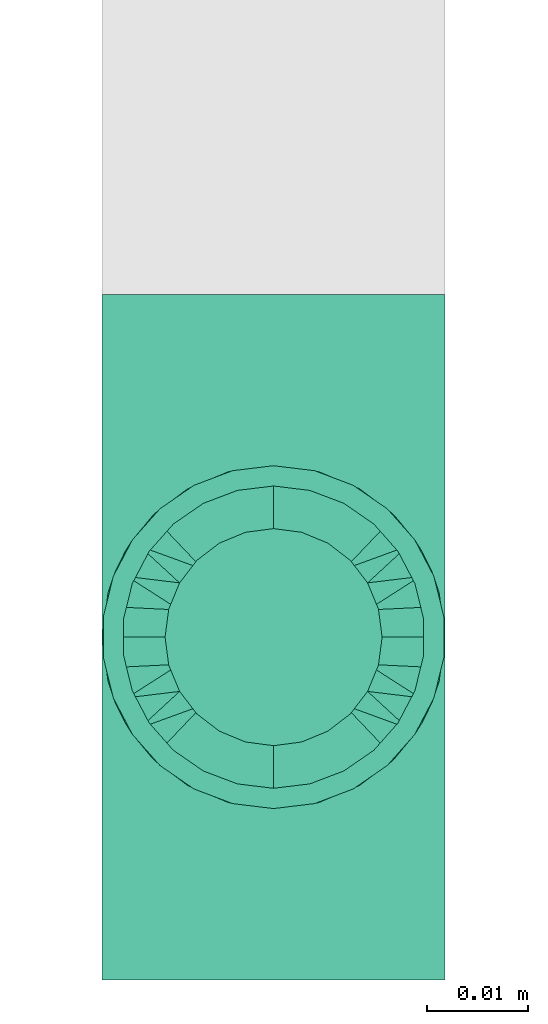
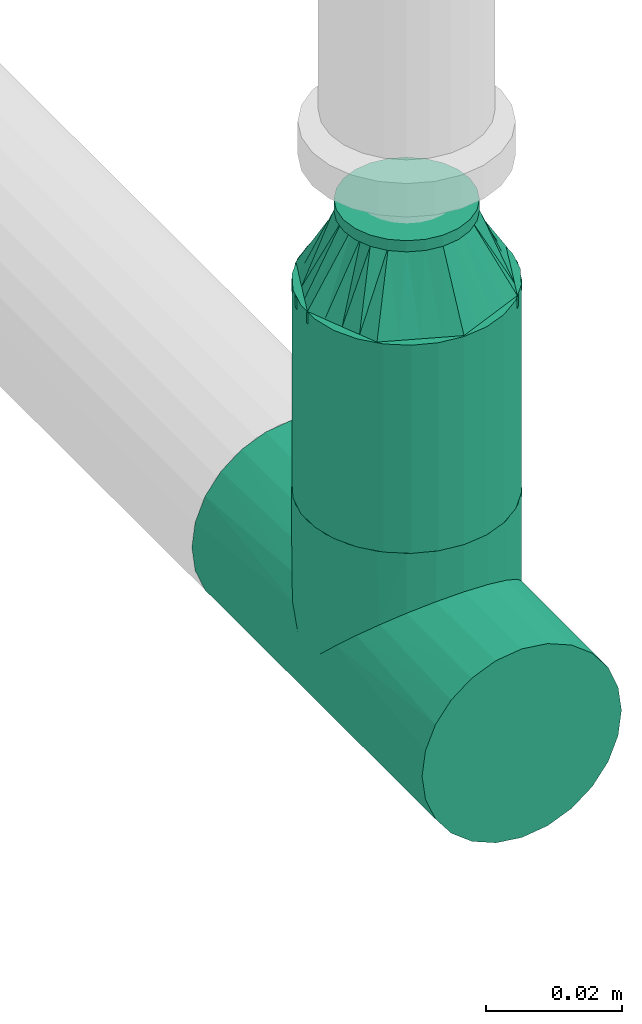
# One storey, part 66 of 94: 2 flow fittings, 1 flow segment.
"""IFC2X3 building model written with IfcOpenShell, lengths in millimetres."""

from ifc_helpers import new_model, entity, si_unit, converted_unit, derived_unit, direction, frame, origin_with_axes, origin_2d_with_axis, place, context, subcontext, project, spatial, hollow_circle, extrude, open_shell, surface_model, source, transform, mapped, type_object, element, save


model = new_model("IFC2X3")

# Units and contexts
model_context = context("Model", 3, precision=0.01, world=frame((0.0, 4.29681676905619e-09, 0.0)), true_north=direction((4.01073788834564e-13, 1.0)))
plan_context = context("Plan", 3, precision=0.01, world=frame((0.0, 4.29681676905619e-09, 0.0)), true_north=direction((4.01073788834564e-13, 1.0)))
body_context = subcontext(model_context, "Body", "Model", "MODEL_VIEW")
ifc_project = project(units=[converted_unit("PLANEANGLEUNIT", "DEGREE", entity("IfcPositiveLengthMeasure", 0.0174532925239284), si_unit("PLANEANGLEUNIT", "RADIAN"), dimensions=[0, 0, 0, 0, 0, 0, 0]), si_unit("AREAUNIT", "SQUARE_METRE"), si_unit("LENGTHUNIT", "METRE", prefix="MILLI"), si_unit("MASSUNIT", "GRAM", prefix="KILO"), si_unit("POWERUNIT", "WATT"), si_unit("PRESSUREUNIT", "PASCAL"), si_unit("FORCEUNIT", "NEWTON", prefix="KILO"), si_unit("ELECTRICCURRENTUNIT", "AMPERE"), si_unit("THERMODYNAMICTEMPERATUREUNIT", "DEGREE_CELSIUS"), si_unit("TIMEUNIT", "SECOND"), si_unit("VOLUMEUNIT", "CUBIC_METRE"), derived_unit("LINEARVELOCITYUNIT", [(si_unit("LENGTHUNIT", "METRE"), 1), (si_unit("TIMEUNIT", "SECOND"), -1)]), derived_unit("VOLUMETRICFLOWRATEUNIT", [(si_unit("VOLUMEUNIT", "CUBIC_METRE"), 1), (si_unit("TIMEUNIT", "SECOND"), -1)]), derived_unit("THERMALTRANSMITTANCEUNIT", [(si_unit("POWERUNIT", "WATT"), 1), (si_unit("THERMODYNAMICTEMPERATUREUNIT", "KELVIN"), -1), (si_unit("AREAUNIT", "SQUARE_METRE"), -1)])], contexts=[model_context, plan_context])

# Site, building, storey
site_placement = place(None, frame((0.0, -4.29681676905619e-09, 0.0), z_axis=(0.0, 0.0, 1.0), x_axis=(1.0, 0.0, 0.0)))
site = spatial("IfcSite", under=ifc_project, at=site_placement, CompositionType="ELEMENT")
building_placement = place(site_placement, frame((0.0, 4.29681676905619e-09, 0.0), z_axis=(0.0, 0.0, 1.0), x_axis=(1.0, 0.0, 0.0)))
building = spatial("IfcBuilding", under=site, at=building_placement, Name="mc-building", CompositionType="ELEMENT")
storey_placement = place(building_placement, frame((0.0, 0.0, 200300.0), z_axis=(0.0, 0.0, 1.0), x_axis=(1.0, 0.0, 0.0)))
storey = spatial("IfcBuildingStorey", under=building, at=storey_placement, Name="Nivå C", CompositionType="ELEMENT", Elevation=200300.0)

# Flow fittings
pipe_fitting_type_1 = type_object("IfcPipeFittingType", Name="magi_pipe_fe_tee_centric_90_NOR", PredefinedType="JUNCTION")
shared_shape_1 = source(origin_with_axes(), body_context, "Body", "SurfaceModel", [
    surface_model("IfcShellBasedSurfaceModel", [(-33.8, 4.37404, -16.32415), (-33.8, 0.0, -16.9), (-33.8, 16.32415, -4.37404), (-33.8, 8.45, -14.63583), (-33.8, 11.9501, -11.9501), (-33.8, 14.63583, -8.45), (-33.8, -16.9, 0.0), (-33.8, -11.9501, -11.9501), (-33.8, -14.63583, -8.45), (-33.8, -8.45, -14.63583), (-33.8, -4.37404, -16.32415), (-33.8, -16.32415, -4.37404), (-33.8, 14.63583, 8.45), (-33.8, 16.32415, 4.37404), (-33.8, -8.45, 14.63583), (-33.8, 8.45, 14.63583), (-33.8, 11.9501, 11.9501), (-33.8, 4.37404, 16.32415), (-33.8, 0.0, 16.9), (-33.8, -11.9501, 11.9501), (-33.8, -14.63583, 8.45), (-33.8, -16.32415, 4.37404), (-33.8, -4.37404, 16.32415), (-33.8, 16.9, 0.0), (33.8, 4.37404, -16.32415), (33.8, -16.9, 0.0), (33.8, 0.0, -16.9), (33.8, 14.63583, -8.45), (33.8, 8.45, -14.63583), (33.8, 16.32415, -4.37404), (33.8, 11.9501, -11.9501), (33.8, -16.32415, 4.37404), (33.8, -8.45, -14.63583), (33.8, -4.37404, -16.32415), (33.8, -11.9501, -11.9501), (33.8, -14.63583, -8.45), (33.8, -16.32415, -4.37404), (33.8, 16.32415, 4.37404), (33.8, 8.45, 14.63583), (33.8, 14.63583, 8.45), (33.8, 11.9501, 11.9501), (33.8, -8.45, 14.63583), (33.8, 4.37404, 16.32415), (33.8, -14.63583, 8.45), (33.8, -11.9501, 11.9501), (33.8, 0.0, 16.9), (33.8, -4.37404, 16.32415), (33.8, 16.9, 0.0), (16.28698, -16.28698, 4.51047), (16.9, -16.9, 0.0), (14.62704, -14.62704, 8.4652), (9.47213, -9.47213, 13.99602), (12.26343, -12.26343, 11.62834), (-16.9, -16.9, 0.0), (-16.28698, -16.28698, 4.51047), (-14.62704, -14.62704, 8.4652), (-12.26343, -12.26343, 11.62834), (-9.47213, -9.47213, 13.99602), (-6.42894, -6.42894, 15.62942), (6.42894, -6.42894, 15.62942), (3.24522, -3.24522, 16.58549), (0.0, 0.0, 16.9), (-3.24522, -3.24522, 16.58549), (3.24522, -3.24522, -16.58549), (0.0, 0.0, -16.9), (-3.24522, -3.24522, -16.58549), (-6.42894, -6.42894, -15.62942), (6.42894, -6.42894, -15.62942), (9.47213, -9.47213, -13.99602), (12.26343, -12.26343, -11.62834), (14.62704, -14.62704, -8.4652), (16.28698, -16.28698, -4.51047), (-9.47213, -9.47213, -13.99602), (-12.26343, -12.26343, -11.62834), (-16.28698, -16.28698, -4.51047), (-14.62704, -14.62704, -8.4652), (4.37404, -25.35, -16.32415), (-16.9, -25.35, 0.0), (0.0, -25.35, -16.9), (14.63583, -25.35, -8.45), (8.45, -25.35, -14.63583), (16.32415, -25.35, -4.37404), (11.9501, -25.35, -11.9501), (-11.9501, -25.35, -11.9501), (-8.45, -25.35, -14.63583), (-4.37404, -25.35, -16.32415), (-14.63583, -25.35, -8.45), (-16.32415, -25.35, -4.37404), (16.9, -25.35, 0.0), (8.45, -25.35, 14.63583), (16.32415, -25.35, 4.37404), (14.63583, -25.35, 8.45), (-8.45, -25.35, 14.63583), (11.9501, -25.35, 11.9501), (4.37404, -25.35, 16.32415), (-16.32415, -25.35, 4.37404), (-11.9501, -25.35, 11.9501), (-14.63583, -25.35, 8.45), (0.0, -25.35, 16.9), (-4.37404, -25.35, 16.32415)], [open_shell([[[0, 1, 2]], [[3, 0, 4]], [[0, 2, 5]], [[4, 0, 5]], [[6, 2, 1]], [[7, 8, 9]], [[1, 10, 9]], [[11, 6, 8]], [[1, 9, 8]], [[1, 8, 6]], [[6, 12, 2]], [[12, 13, 2]], [[14, 12, 6]], [[12, 14, 15]], [[16, 12, 15]], [[17, 15, 18]], [[19, 14, 20]], [[21, 20, 14]], [[22, 18, 14]], [[14, 6, 21]], [[14, 18, 15]], [[23, 2, 13]], [[24, 25, 26]], [[27, 24, 28]], [[27, 29, 24]], [[27, 28, 30]], [[31, 25, 24]], [[26, 32, 33]], [[26, 34, 32]], [[35, 25, 36]], [[35, 34, 26]], [[25, 35, 26]], [[24, 29, 31]], [[29, 37, 38]], [[38, 37, 39]], [[38, 31, 29]], [[38, 39, 40]], [[41, 38, 42]], [[43, 41, 44]], [[41, 43, 31]], [[41, 45, 46]], [[41, 31, 38]], [[42, 45, 41]], [[29, 47, 37]], [[31, 43, 48]], [[25, 31, 49]], [[49, 31, 48]], [[43, 50, 48]], [[44, 41, 51]], [[50, 43, 52]], [[51, 52, 44]], [[52, 43, 44]], [[53, 54, 21]], [[53, 21, 6]], [[21, 54, 20]], [[54, 55, 20]], [[56, 57, 19]], [[19, 20, 56]], [[19, 57, 14]], [[56, 20, 55]], [[14, 57, 58]], [[51, 41, 59]], [[60, 45, 61]], [[59, 46, 60]], [[46, 59, 41]], [[60, 46, 45]], [[61, 45, 42]], [[39, 37, 13]], [[16, 38, 40]], [[12, 40, 39]], [[42, 38, 15]], [[23, 37, 47]], [[62, 61, 18]], [[62, 22, 58]], [[22, 62, 18]], [[58, 22, 14]], [[61, 17, 18]], [[42, 17, 61]], [[15, 17, 42]], [[15, 38, 16]], [[12, 16, 40]], [[13, 12, 39]], [[37, 23, 13]], [[5, 27, 30]], [[23, 47, 29]], [[30, 28, 3]], [[27, 2, 29]], [[26, 33, 63]], [[26, 64, 24]], [[64, 26, 63]], [[28, 24, 0]], [[64, 0, 24]], [[4, 30, 3]], [[2, 27, 5]], [[5, 30, 4]], [[2, 23, 29]], [[65, 66, 10]], [[1, 0, 64]], [[1, 65, 10]], [[66, 9, 10]], [[0, 3, 28]], [[1, 64, 65]], [[63, 33, 67]], [[32, 34, 68]], [[69, 68, 34]], [[35, 70, 69]], [[69, 34, 35]], [[32, 68, 67]], [[36, 25, 49]], [[36, 71, 35]], [[71, 36, 49]], [[35, 71, 70]], [[72, 9, 66]], [[72, 7, 9]], [[7, 72, 73]], [[7, 73, 8]], [[74, 53, 11]], [[75, 74, 8]], [[74, 11, 8]], [[11, 53, 6]], [[75, 8, 73]], [[32, 67, 33]], [[76, 77, 78]], [[79, 76, 80]], [[79, 81, 76]], [[79, 80, 82]], [[77, 76, 81]], [[78, 83, 84]], [[84, 85, 78]], [[86, 77, 87]], [[83, 78, 86]], [[77, 86, 78]], [[81, 88, 77]], [[89, 88, 90]], [[89, 90, 91]], [[92, 77, 89]], [[89, 91, 93]], [[92, 89, 94]], [[95, 96, 97]], [[96, 95, 92]], [[92, 98, 99]], [[95, 77, 92]], [[94, 98, 92]], [[89, 77, 88]], [[77, 95, 53]], [[54, 53, 95]], [[97, 96, 56]], [[96, 92, 57]], [[95, 97, 54]], [[58, 92, 99]], [[55, 54, 97]], [[56, 55, 97]], [[58, 57, 92]], [[98, 61, 62]], [[58, 99, 62]], [[56, 96, 57]], [[62, 99, 98]], [[94, 60, 98]], [[89, 59, 94]], [[91, 90, 48]], [[52, 93, 91]], [[93, 51, 89]], [[49, 90, 88]], [[59, 60, 94]], [[51, 59, 89]], [[49, 48, 90]], [[50, 52, 91]], [[48, 50, 91]], [[51, 93, 52]], [[98, 60, 61]], [[88, 81, 49]], [[71, 49, 81]], [[79, 82, 69]], [[82, 80, 68]], [[81, 79, 71]], [[67, 80, 76]], [[70, 71, 79]], [[69, 70, 79]], [[67, 68, 80]], [[78, 64, 63]], [[67, 76, 63]], [[69, 82, 68]], [[63, 76, 78]], [[85, 65, 78]], [[84, 66, 85]], [[86, 87, 74]], [[86, 73, 83]], [[72, 84, 83]], [[53, 87, 77]], [[66, 65, 85]], [[72, 66, 84]], [[53, 74, 87]], [[75, 73, 86]], [[74, 75, 86]], [[72, 83, 73]], [[78, 65, 64]]])]),
])
flow_fitting_1_placement = place(storey_placement, frame((530500.0, 400928.19532, 2900.0), z_axis=(-1.0, 0.0, 0.0), x_axis=(0.0, 1.0, 0.0)))
element("IfcFlowFitting", 1, at=flow_fitting_1_placement, inside=storey, type_object=pipe_fitting_type_1, Name="magi_pipe_fe_tee_centric_90_NOR", context=body_context, shape_type="MappedRepresentation", body=[
    mapped(shared_shape_1, transform((0.0, 0.0, 0.0), scale=1.0)),
])
pipe_fitting_type_2 = type_object("IfcPipeFittingType", Name="magi_pipe_fe_reducer_centric_short_NOR", PredefinedType="TRANSITION")
shared_shape_2 = source(origin_with_axes(), body_context, "Body", "SurfaceModel", [
    surface_model("IfcShellBasedSurfaceModel", [(14.4, 5.35, -9.26647), (14.4, 0.0, -10.7), (14.4, 2.76936, -10.33541), (14.4, 10.33541, -2.76936), (14.4, 7.56604, -7.56604), (14.4, -10.33541, -2.76936), (14.4, 9.26647, -5.35), (14.4, 0.0, 10.7), (14.4, -5.35, -9.26647), (14.4, -2.76936, -10.33541), (14.4, -7.56604, -7.56604), (14.4, -9.26647, -5.35), (14.4, 10.7, 0.0), (14.4, 10.33541, 2.76936), (14.4, 9.26647, 5.35), (14.4, 7.56604, 7.56604), (14.4, 2.76936, 10.33541), (14.4, 5.35, 9.26647), (14.4, -10.33541, 2.76936), (14.4, -7.56604, 7.56604), (14.4, -9.26647, 5.35), (14.4, -10.7, 0.0), (14.4, -2.76936, 10.33541), (14.4, -5.35, 9.26647), (12.4, 2.76936, 10.33541), (12.4, -10.33541, -2.76936), (12.4, 0.0, 10.7), (12.4, 5.35, 9.26647), (12.4, 7.56604, 7.56604), (12.4, 9.26647, 5.35), (12.4, 10.33541, 2.76936), (12.4, -10.33541, 2.76936), (12.4, -2.76936, 10.33541), (12.4, -7.56604, 7.56604), (12.4, -5.35, 9.26647), (12.4, -9.26647, 5.35), (12.4, -10.7, 0.0), (12.4, 10.33541, -2.76936), (12.4, 5.35, -9.26647), (12.4, 9.26647, -5.35), (12.4, 7.56604, -7.56604), (12.4, 2.76936, -10.33541), (12.4, -9.26647, -5.35), (12.4, -5.35, -9.26647), (12.4, -7.56604, -7.56604), (12.4, 0.0, -10.7), (12.4, -2.76936, -10.33541), (12.4, 10.7, 0.0), (-2.0, 11.9501, 11.9501), (-2.0, 0.0, 16.9), (-2.0, 4.37404, 16.32415), (-2.0, 8.45, 14.63583), (-2.0, 14.63583, 8.45), (-2.0, 16.32415, 4.37404), (-2.0, -16.32415, 4.37404), (-2.0, -8.45, 14.63583), (-2.0, -14.63583, 8.45), (-2.0, -11.9501, 11.9501), (-2.0, -4.37404, 16.32415), (-2.0, -16.32415, -4.37404), (-2.0, -16.9, 0.0), (-2.0, -8.45, -14.63583), (-2.0, 16.32415, -4.37404), (-2.0, 11.9501, -11.9501), (-2.0, 14.63583, -8.45), (-2.0, 8.45, -14.63583), (-2.0, 4.37404, -16.32415), (-2.0, 0.0, -16.9), (-2.0, -11.9501, -11.9501), (-2.0, -14.63583, -8.45), (-2.0, -4.37404, -16.32415), (-2.0, 16.9, 0.0), (0.0, 4.37404, -16.32415), (0.0, 8.45, -14.63583), (0.0, 11.9501, -11.9501), (0.0, 0.0, -16.9), (0.0, 16.32415, -4.37404), (0.0, 16.32415, 4.37404), (0.0, 14.63583, -8.45), (0.0, -8.45, -14.63583), (0.0, -4.37404, -16.32415), (0.0, -11.9501, -11.9501), (0.0, -16.32415, -4.37404), (0.0, -14.63583, -8.45), (0.0, -16.32415, 4.37404), (0.0, 16.9, 0.0), (0.0, 14.63583, 8.45), (0.0, 11.9501, 11.9501), (0.0, 4.37404, 16.32415), (0.0, 8.45, 14.63583), (0.0, 0.0, 16.9), (0.0, -14.63583, 8.45), (0.0, -16.9, 0.0), (0.0, -8.45, 14.63583), (0.0, -11.9501, 11.9501), (0.0, -4.37404, 16.32415), (12.4, 9.3625, -2.31662), (0.0, 14.42505, -5.97505), (0.0, 15.66253, -2.98753), (12.4, -6.6875, -6.94985), (0.0, -13.18758, -8.96258), (0.0, 2.98753, -15.66253), (12.4, 0.0, -9.26647), (12.4, 6.6875, -6.94985), (0.0, 8.96258, -13.18758), (12.4, -9.3625, -2.31662), (0.0, -15.66253, -2.98753), (0.0, -14.42505, -5.97505), (0.0, 5.97505, -14.42505), (0.0, -2.98753, -15.66253), (0.0, -8.96258, -13.18758), (0.0, 13.18758, -8.96258), (12.4, 8.025, -4.63324), (12.4, -2.675, -9.26647), (12.4, 2.675, -9.26647), (0.0, -5.97505, -14.42505), (12.4, -8.025, -4.63324), (12.4, -9.3625, 2.31662), (0.0, -14.42505, 5.97505), (0.0, -15.66253, 2.98753), (12.4, 6.6875, 6.94985), (0.0, 13.18758, 8.96258), (0.0, -2.98753, 15.66253), (12.4, 0.0, 9.26647), (12.4, -6.6875, 6.94985), (0.0, -8.96258, 13.18758), (12.4, 9.3625, 2.31662), (0.0, 15.66253, 2.98753), (0.0, 14.42505, 5.97505), (0.0, -5.97505, 14.42505), (0.0, 2.98753, 15.66253), (0.0, 8.96258, 13.18758), (0.0, -13.18758, 8.96258), (12.4, -8.025, 4.63324), (12.4, 2.675, 9.26647), (12.4, -2.675, 9.26647), (0.0, 5.97505, 14.42505), (12.4, 8.025, 4.63324)], [open_shell([[[0, 1, 2]], [[3, 0, 4]], [[5, 0, 3]], [[3, 4, 6]], [[7, 5, 3]], [[1, 8, 9]], [[1, 0, 8]], [[10, 5, 11]], [[5, 10, 8]], [[0, 5, 8]], [[3, 12, 13]], [[13, 14, 15]], [[13, 15, 16]], [[7, 3, 16]], [[16, 15, 17]], [[7, 18, 5]], [[18, 19, 20]], [[21, 5, 18]], [[19, 22, 23]], [[22, 19, 18]], [[7, 22, 18]], [[13, 16, 3]], [[24, 25, 26]], [[27, 25, 24]], [[28, 29, 30]], [[28, 25, 27]], [[31, 26, 25]], [[32, 33, 34]], [[33, 32, 31]], [[33, 31, 35]], [[32, 26, 31]], [[31, 25, 36]], [[30, 37, 28]], [[25, 28, 37]], [[38, 37, 39]], [[37, 38, 25]], [[38, 39, 40]], [[41, 25, 38]], [[42, 43, 44]], [[43, 42, 25]], [[43, 45, 46]], [[43, 25, 41]], [[41, 45, 43]], [[37, 30, 47]], [[25, 5, 36]], [[42, 11, 25]], [[8, 44, 43]], [[42, 44, 10]], [[9, 43, 46]], [[25, 11, 5]], [[5, 21, 36]], [[9, 8, 43]], [[10, 44, 8]], [[10, 11, 42]], [[1, 9, 46]], [[46, 45, 1]], [[41, 2, 45]], [[38, 0, 41]], [[6, 40, 39]], [[38, 40, 4]], [[3, 39, 37]], [[38, 4, 0]], [[0, 2, 41]], [[12, 3, 37]], [[6, 39, 3]], [[6, 4, 40]], [[47, 12, 37]], [[45, 2, 1]], [[30, 13, 47]], [[29, 14, 30]], [[17, 28, 27]], [[29, 28, 15]], [[16, 27, 24]], [[30, 14, 13]], [[13, 12, 47]], [[16, 17, 27]], [[15, 28, 17]], [[15, 14, 29]], [[7, 16, 24]], [[24, 26, 7]], [[32, 22, 26]], [[34, 23, 32]], [[20, 33, 35]], [[34, 33, 19]], [[18, 35, 31]], [[34, 19, 23]], [[23, 22, 32]], [[21, 18, 31]], [[20, 35, 18]], [[20, 19, 33]], [[36, 21, 31]], [[26, 22, 7]], [[48, 49, 50]], [[48, 50, 51]], [[48, 52, 53]], [[48, 53, 49]], [[49, 53, 54]], [[55, 56, 57]], [[55, 58, 49]], [[56, 55, 49]], [[49, 54, 56]], [[54, 59, 60]], [[54, 53, 61]], [[53, 62, 63]], [[63, 62, 64]], [[63, 65, 66]], [[61, 53, 63]], [[67, 63, 66]], [[59, 68, 69]], [[68, 59, 61]], [[61, 67, 70]], [[59, 54, 61]], [[63, 67, 61]], [[53, 71, 62]], [[72, 73, 74]], [[75, 72, 74]], [[74, 76, 77]], [[76, 74, 78]], [[74, 77, 79]], [[75, 79, 80]], [[75, 74, 79]], [[81, 82, 83]], [[82, 81, 79]], [[79, 84, 82]], [[77, 76, 85]], [[77, 86, 87]], [[77, 87, 88]], [[88, 84, 79]], [[88, 87, 89]], [[84, 88, 90]], [[90, 91, 84]], [[92, 82, 84]], [[91, 93, 94]], [[91, 90, 93]], [[93, 90, 95]], [[79, 77, 88]], [[59, 82, 60]], [[69, 83, 59]], [[79, 68, 61]], [[69, 68, 81]], [[80, 61, 70]], [[59, 83, 82]], [[82, 92, 60]], [[80, 79, 61]], [[81, 68, 79]], [[81, 83, 69]], [[75, 80, 70]], [[70, 67, 75]], [[66, 72, 67]], [[65, 73, 66]], [[78, 63, 64]], [[65, 63, 74]], [[76, 64, 62]], [[65, 74, 73]], [[73, 72, 66]], [[85, 76, 62]], [[78, 64, 76]], [[78, 74, 63]], [[71, 85, 62]], [[67, 72, 75]], [[53, 77, 71]], [[52, 86, 53]], [[89, 48, 51]], [[52, 48, 87]], [[88, 51, 50]], [[53, 86, 77]], [[77, 85, 71]], [[88, 89, 51]], [[87, 48, 89]], [[87, 86, 52]], [[90, 88, 50]], [[50, 49, 90]], [[58, 95, 49]], [[55, 93, 58]], [[91, 57, 56]], [[55, 57, 94]], [[84, 56, 54]], [[55, 94, 93]], [[93, 95, 58]], [[92, 84, 54]], [[91, 56, 84]], [[91, 94, 57]], [[60, 92, 54]], [[49, 95, 90]], [[27, 34, 47]], [[47, 34, 43]], [[43, 38, 47]], [[43, 34, 36]], [[90, 87, 94]], [[92, 94, 87]], [[87, 74, 92]], [[75, 92, 74]], [[81, 92, 75]], [[74, 87, 85]], [[96, 97, 98]], [[81, 99, 100]], [[101, 102, 75]], [[98, 85, 47]], [[74, 103, 104]], [[104, 103, 38]], [[105, 106, 107]], [[38, 108, 104]], [[102, 109, 75]], [[110, 99, 81]], [[47, 96, 98]], [[103, 111, 112]], [[109, 102, 113]], [[36, 92, 106]], [[102, 101, 114]], [[110, 115, 43]], [[96, 112, 97]], [[107, 116, 105]], [[36, 106, 105]], [[113, 115, 109]], [[43, 115, 113]], [[116, 107, 100]], [[108, 38, 114]], [[111, 103, 74]], [[111, 97, 112]], [[99, 110, 43]], [[116, 100, 99]], [[101, 108, 114]], [[117, 118, 119]], [[87, 120, 121]], [[122, 123, 90]], [[119, 92, 36]], [[94, 124, 125]], [[125, 124, 34]], [[126, 127, 128]], [[34, 129, 125]], [[123, 130, 90]], [[131, 120, 87]], [[36, 117, 119]], [[124, 132, 133]], [[130, 123, 134]], [[47, 85, 127]], [[123, 122, 135]], [[131, 136, 27]], [[117, 133, 118]], [[128, 137, 126]], [[47, 127, 126]], [[134, 136, 130]], [[27, 136, 134]], [[137, 128, 121]], [[129, 34, 135]], [[132, 124, 94]], [[132, 118, 133]], [[120, 131, 27]], [[137, 121, 120]], [[122, 129, 135]]])]),
])
flow_fitting_2_placement = place(storey_placement, frame((530500.0, 400928.19532, 2962.64799999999), z_axis=(-1.0, 0.0, 0.0), x_axis=(0.0, 0.0, 1.0)))
element("IfcFlowFitting", 2, at=flow_fitting_2_placement, inside=storey, type_object=pipe_fitting_type_2, Name="magi_pipe_fe_reducer_centric_short_NOR", context=body_context, shape_type="MappedRepresentation", body=[
    mapped(shared_shape_2, transform((0.0, 0.0, 0.0), scale=1.0)),
])

# Flow segment
pipe_segment_type = type_object("IfcPipeSegmentType", Name="Stålrør normaltykke", PredefinedType="RIGIDSEGMENT")
shared_shape_3 = source(origin_with_axes(), body_context, "Body", "SweptSolid", [
    extrude(hollow_circle(Radius=16.9, WallThickness=2.0, at=origin_2d_with_axis()), frame((0.0, 0.0, 0.0), z_axis=(1.0, 0.0, 0.0), x_axis=(0.0, 1.0, 0.0)), (0.0, 0.0, 1.0), 37.3),
])
flow_segment_placement = place(storey_placement, frame((530500.0, 400928.19532, 2925.35000000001), z_axis=(-1.0, 0.0, 0.0), x_axis=(0.0, 0.0, 1.0)))
element("IfcFlowSegment", 3, at=flow_segment_placement, inside=storey, type_object=pipe_segment_type, Name="Stålrør normaltykke", context=body_context, shape_type="MappedRepresentation", body=[
    mapped(shared_shape_3, transform((0.0, 0.0, 0.0), scale=1.0)),
])

save(model, "model.ifc")
